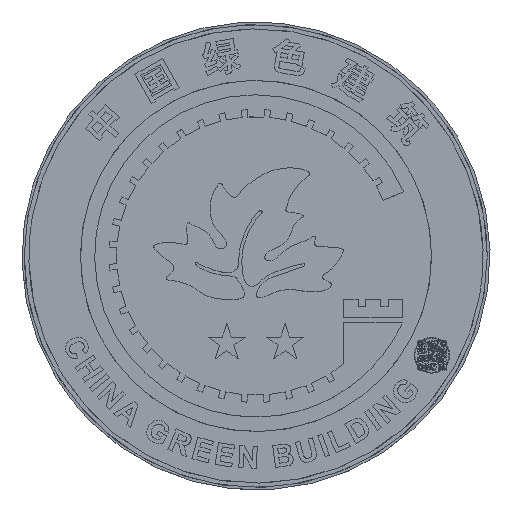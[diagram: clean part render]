
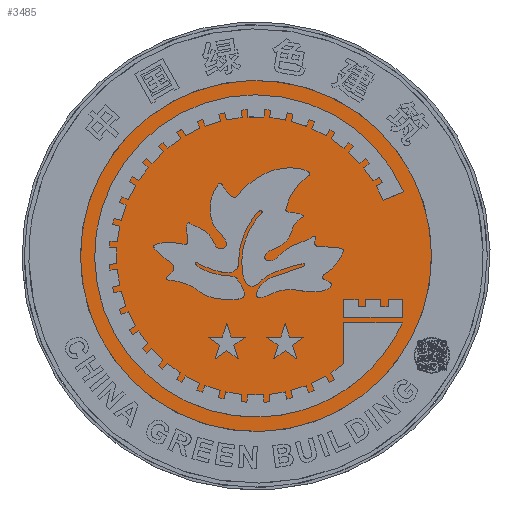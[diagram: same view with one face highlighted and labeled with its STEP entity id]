
A CAD part, top view. The second image highlights one B-rep face of the part: STEP entity #3485.
In plain terms, the highlighted planar face has unit normal (0, 0, 1).
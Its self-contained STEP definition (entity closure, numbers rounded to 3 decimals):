
#3485=ADVANCED_FACE('',(#5751),#33312,.T.);
#5751=FACE_OUTER_BOUND('',#8027,.T.);
#8027=EDGE_LOOP('',(#12719,#12720));
#12719=ORIENTED_EDGE('',*,*,#21067,.T.);
#12720=ORIENTED_EDGE('',*,*,#21070,.T.);
#21067=EDGE_CURVE('',#30578,#30580,#26113,.T.);
#21070=EDGE_CURVE('',#30580,#30578,#26116,.T.);
#26113=B_SPLINE_CURVE_WITH_KNOTS('',3,(#57475,#57476,#57477,#57478,#57479,
#57480,#57481,#57482,#57483,#57484,#57485,#57486,#57487),.UNSPECIFIED.,
 .F.,.F.,(4,3,3,3,4),(-9.,-8.,-7.,-6.,-5.),.UNSPECIFIED.);
#26116=B_SPLINE_CURVE_WITH_KNOTS('',3,(#57503,#57504,#57505,#57506,#57507,
#57508,#57509,#57510,#57511,#57512,#57513,#57514,#57515),.UNSPECIFIED.,
 .F.,.F.,(4,3,3,3,4),(-5.,-4.,-3.,-2.,-1.),.UNSPECIFIED.);
#30578=VERTEX_POINT('',#57457);
#30580=VERTEX_POINT('',#57459);
#33312=PLANE('',#34135);
#34135=AXIS2_PLACEMENT_3D('',#57429,#34941,$);
#34941=DIRECTION('',(0.,0.,1.));
#57429=CARTESIAN_POINT('',(10741.323,642.805,10.));
#57457=CARTESIAN_POINT('',(10545.336,-83.449,10.));
#57459=CARTESIAN_POINT('',(9999.505,431.262,10.));
#57475=CARTESIAN_POINT('',(10545.336,-83.449,10.));
#57476=CARTESIAN_POINT('',(10613.688,-10.959,10.));
#57477=CARTESIAN_POINT('',(10650.301,85.315,10.));
#57478=CARTESIAN_POINT('',(10647.38,184.9,10.));
#57479=CARTESIAN_POINT('',(10644.459,284.5,10.));
#57480=CARTESIAN_POINT('',(10602.263,378.467,10.));
#57481=CARTESIAN_POINT('',(10529.774,446.819,10.));
#57482=CARTESIAN_POINT('',(10457.291,515.179,10.));
#57483=CARTESIAN_POINT('',(10361.01,551.783,10.));
#57484=CARTESIAN_POINT('',(10261.425,548.863,10.));
#57485=CARTESIAN_POINT('',(10161.825,545.943,10.));
#57486=CARTESIAN_POINT('',(10067.865,503.753,10.));
#57487=CARTESIAN_POINT('',(9999.505,431.262,10.));
#57503=CARTESIAN_POINT('',(9999.505,431.262,10.));
#57504=CARTESIAN_POINT('',(9931.153,358.772,10.));
#57505=CARTESIAN_POINT('',(9894.541,262.503,10.));
#57506=CARTESIAN_POINT('',(9897.461,162.907,10.));
#57507=CARTESIAN_POINT('',(9900.382,63.315,10.));
#57508=CARTESIAN_POINT('',(9942.572,-30.652,10.));
#57509=CARTESIAN_POINT('',(10015.063,-99.011,10.));
#57510=CARTESIAN_POINT('',(10087.552,-167.363,10.));
#57511=CARTESIAN_POINT('',(10183.822,-203.969,10.));
#57512=CARTESIAN_POINT('',(10283.418,-201.048,10.));
#57513=CARTESIAN_POINT('',(10383.01,-198.127,10.));
#57514=CARTESIAN_POINT('',(10476.977,-155.939,10.));
#57515=CARTESIAN_POINT('',(10545.336,-83.449,10.));
